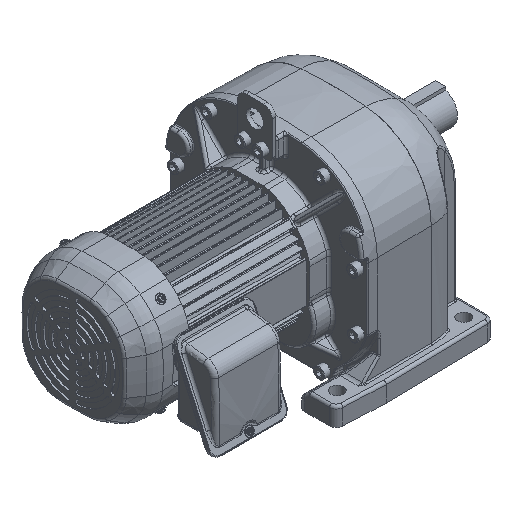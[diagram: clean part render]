
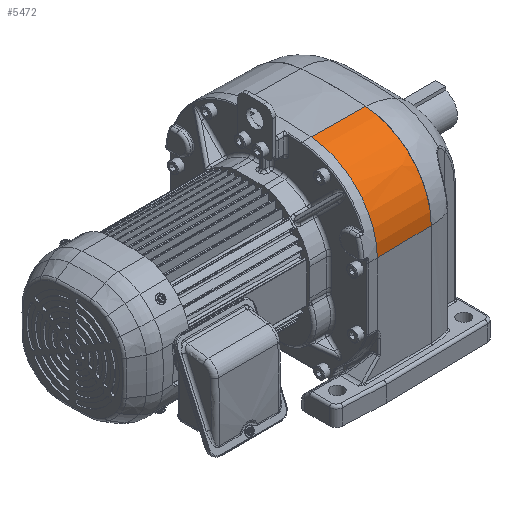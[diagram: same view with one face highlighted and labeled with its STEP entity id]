
A CAD part, isometric view. The second image highlights one B-rep face of the part: STEP entity #5472.
In plain terms, the highlighted free-form (B-spline) face has degree [2, 2] with [4, 3] control points.
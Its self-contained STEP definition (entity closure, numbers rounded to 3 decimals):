
#5472 = ADVANCED_FACE( '', ( #11385 ), #11386, .T. );
#11385 = FACE_OUTER_BOUND( '', #29481, .T. );
#11386 = ( BOUNDED_SURFACE(  )B_SPLINE_SURFACE( 2, 2, ( ( #29484, #29485, #29486 ), ( #29487, #29488, #29489 ), ( #29490, #29491, #29492 ), ( #29493, #29494, #29495 ) ), .UNSPECIFIED., .F., .F., .F. )B_SPLINE_SURFACE_WITH_KNOTS( ( 3, 1, 3 ), ( 3, 3 ), ( 0., 0.2, 1. ), ( 0., 1. ), .UNSPECIFIED. )GEOMETRIC_REPRESENTATION_ITEM(  )RATIONAL_B_SPLINE_SURFACE( ( ( 1., 0.734, 1. ), ( 1., 0.734, 1. ), ( 1., 0.734, 1. ), ( 1., 0.734, 1. ) ) )REPRESENTATION_ITEM( '' )SURFACE(  ) );
#29481 = EDGE_LOOP( '', ( #45008, #45009, #45010, #45011 ) );
#29484 = CARTESIAN_POINT( '', ( 130.169, -142.976, 166.183 ) );
#29485 = CARTESIAN_POINT( '', ( 130.169, -220.37, 160.197 ) );
#29486 = CARTESIAN_POINT( '', ( 130.169, -220.37, 82.573 ) );
#29487 = CARTESIAN_POINT( '', ( 123.666, -143.014, 166.294 ) );
#29488 = CARTESIAN_POINT( '', ( 123.666, -220.484, 160.301 ) );
#29489 = CARTESIAN_POINT( '', ( 123.666, -220.484, 82.571 ) );
#29490 = CARTESIAN_POINT( '', ( 91.151, -143.009, 166.866 ) );
#29491 = CARTESIAN_POINT( '', ( 91.151, -221.054, 160.832 ) );
#29492 = CARTESIAN_POINT( '', ( 91.151, -221.054, 82.574 ) );
#29493 = CARTESIAN_POINT( '', ( 65.139, -143.064, 167.32 ) );
#29494 = CARTESIAN_POINT( '', ( 65.139, -221.51, 161.253 ) );
#29495 = CARTESIAN_POINT( '', ( 65.139, -221.51, 82.573 ) );
#45008 = ORIENTED_EDGE( '', *, *, #47865, .T. );
#45009 = ORIENTED_EDGE( '', *, *, #50380, .F. );
#45010 = ORIENTED_EDGE( '', *, *, #48875, .F. );
#45011 = ORIENTED_EDGE( '', *, *, #50260, .F. );
#47865 = EDGE_CURVE( '', #52289, #55560, #55562, .T. );
#48875 = EDGE_CURVE( '', #57090, #57092, #57093, .T. );
#50260 = EDGE_CURVE( '', #52289, #57090, #58941, .T. );
#50380 = EDGE_CURVE( '', #57092, #55560, #59087, .T. );
#52289 = VERTEX_POINT( '', #61628 );
#55560 = VERTEX_POINT( '', #67467 );
#55562 = B_SPLINE_CURVE_WITH_KNOTS( '', 2, ( #67469, #67470, #67471, #67472 ), .UNSPECIFIED., .F., .F., ( 3, 1, 3 ), ( 0., 0.2, 1. ), .UNSPECIFIED. );
#57090 = VERTEX_POINT( '', #70656 );
#57092 = VERTEX_POINT( '', #70659 );
#57093 = B_SPLINE_CURVE_WITH_KNOTS( '', 2, ( #70660, #70661, #70662, #70663 ), .UNSPECIFIED., .F., .F., ( 3, 1, 3 ), ( 0., 0.2, 1. ), .UNSPECIFIED. );
#58941 = CIRCLE( '', #75148, 83.86 );
#59087 = CIRCLE( '', #75732, 85. );
#61628 = CARTESIAN_POINT( '', ( 130.169, -142.976, 166.183 ) );
#67467 = CARTESIAN_POINT( '', ( 65.139, -143.064, 167.32 ) );
#67469 = CARTESIAN_POINT( '', ( 130.169, -142.976, 166.183 ) );
#67470 = CARTESIAN_POINT( '', ( 123.666, -143.014, 166.294 ) );
#67471 = CARTESIAN_POINT( '', ( 91.151, -143.009, 166.866 ) );
#67472 = CARTESIAN_POINT( '', ( 65.139, -143.064, 167.32 ) );
#70656 = CARTESIAN_POINT( '', ( 130.169, -220.37, 82.573 ) );
#70659 = CARTESIAN_POINT( '', ( 65.139, -221.51, 82.573 ) );
#70660 = CARTESIAN_POINT( '', ( 130.169, -220.37, 82.573 ) );
#70661 = CARTESIAN_POINT( '', ( 123.666, -220.484, 82.571 ) );
#70662 = CARTESIAN_POINT( '', ( 91.151, -221.054, 82.574 ) );
#70663 = CARTESIAN_POINT( '', ( 65.139, -221.51, 82.573 ) );
#75148 = AXIS2_PLACEMENT_3D( '', #85260, #85261, #85262 );
#75732 = AXIS2_PLACEMENT_3D( '', #85391, #85392, #85393 );
#85260 = CARTESIAN_POINT( '', ( 130.169, -136.51, 82.573 ) );
#85261 = DIRECTION( '', ( 1., 0., 0. ) );
#85262 = DIRECTION( '', ( 0., -0.077, 0.997 ) );
#85391 = CARTESIAN_POINT( '', ( 65.139, -136.51, 82.573 ) );
#85392 = DIRECTION( '', ( -1., 0., 0. ) );
#85393 = DIRECTION( '', ( 0., 1., 0. ) );
